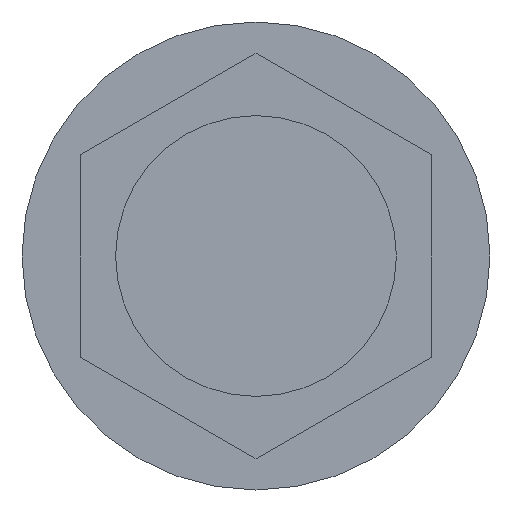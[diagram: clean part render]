
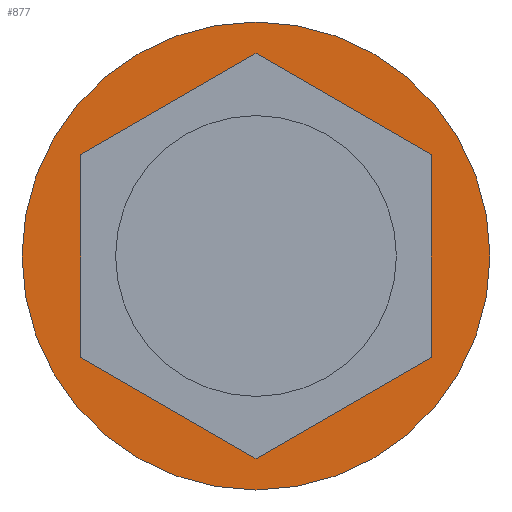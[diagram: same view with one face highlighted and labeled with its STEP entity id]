
A CAD part, front view. The second image highlights one B-rep face of the part: STEP entity #877.
In plain terms, the highlighted planar face has unit normal (0, -1, 0).
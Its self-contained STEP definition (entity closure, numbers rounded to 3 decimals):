
#804 = CYLINDRICAL_SURFACE('',#805,20.);
#805 = AXIS2_PLACEMENT_3D('',#806,#807,#808);
#806 = CARTESIAN_POINT('',(-85.,-16.,0.));
#807 = DIRECTION('',(0.,1.,0.));
#808 = DIRECTION('',(1.,0.,0.));
#823 = VERTEX_POINT('',#824);
#824 = CARTESIAN_POINT('',(-65.,-24.,0.));
#845 = EDGE_CURVE('',#823,#823,#846,.T.);
#846 = SURFACE_CURVE('',#847,(#852,#859),.PCURVE_S1.);
#847 = CIRCLE('',#848,20.);
#848 = AXIS2_PLACEMENT_3D('',#849,#850,#851);
#849 = CARTESIAN_POINT('',(-85.,-24.,0.));
#850 = DIRECTION('',(0.,-1.,0.));
#851 = DIRECTION('',(1.,0.,0.));
#852 = PCURVE('',#804,#853);
#853 = DEFINITIONAL_REPRESENTATION('',(#854),#858);
#854 = LINE('',#855,#856);
#855 = CARTESIAN_POINT('',(-0.,-8.));
#856 = VECTOR('',#857,1.);
#857 = DIRECTION('',(-1.,0.));
#858 = ( GEOMETRIC_REPRESENTATION_CONTEXT(2) 
PARAMETRIC_REPRESENTATION_CONTEXT() REPRESENTATION_CONTEXT('2D SPACE',''
  ) );
#859 = PCURVE('',#860,#865);
#860 = PLANE('',#861);
#861 = AXIS2_PLACEMENT_3D('',#862,#863,#864);
#862 = CARTESIAN_POINT('',(-85.,-24.,0.));
#863 = DIRECTION('',(0.,1.,0.));
#864 = DIRECTION('',(0.,0.,1.));
#865 = DEFINITIONAL_REPRESENTATION('',(#866),#874);
#866 = ( BOUNDED_CURVE() B_SPLINE_CURVE(2,(#867,#868,#869,#870,#871,#872
,#873),.UNSPECIFIED.,.T.,.F.) B_SPLINE_CURVE_WITH_KNOTS((1,2,2,2,2,1),(
    -2.094,0.,2.094,4.189,6.283,
8.378),.UNSPECIFIED.) CURVE() GEOMETRIC_REPRESENTATION_ITEM() 
RATIONAL_B_SPLINE_CURVE((1.,0.5,1.,0.5,1.,0.5,1.)) REPRESENTATION_ITEM(
  '') );
#867 = CARTESIAN_POINT('',(0.,20.));
#868 = CARTESIAN_POINT('',(34.641,20.));
#869 = CARTESIAN_POINT('',(17.321,-10.));
#870 = CARTESIAN_POINT('',(0.,-40.));
#871 = CARTESIAN_POINT('',(-17.321,-10.));
#872 = CARTESIAN_POINT('',(-34.641,20.));
#873 = CARTESIAN_POINT('',(0.,20.));
#874 = ( GEOMETRIC_REPRESENTATION_CONTEXT(2) 
PARAMETRIC_REPRESENTATION_CONTEXT() REPRESENTATION_CONTEXT('2D SPACE',''
  ) );
#877 = ADVANCED_FACE('',(#878,#881),#860,.F.);
#878 = FACE_BOUND('',#879,.F.);
#879 = EDGE_LOOP('',(#880));
#880 = ORIENTED_EDGE('',*,*,#845,.F.);
#881 = FACE_BOUND('',#882,.F.);
#882 = EDGE_LOOP('',(#883,#913,#941,#969,#997,#1025));
#883 = ORIENTED_EDGE('',*,*,#884,.T.);
#884 = EDGE_CURVE('',#885,#887,#889,.T.);
#885 = VERTEX_POINT('',#886);
#886 = CARTESIAN_POINT('',(-70.,-24.,-8.66));
#887 = VERTEX_POINT('',#888);
#888 = CARTESIAN_POINT('',(-70.,-24.,8.66));
#889 = SURFACE_CURVE('',#890,(#894,#901),.PCURVE_S1.);
#890 = LINE('',#891,#892);
#891 = CARTESIAN_POINT('',(-70.,-24.,-8.66));
#892 = VECTOR('',#893,1.);
#893 = DIRECTION('',(0.,0.,1.));
#894 = PCURVE('',#860,#895);
#895 = DEFINITIONAL_REPRESENTATION('',(#896),#900);
#896 = LINE('',#897,#898);
#897 = CARTESIAN_POINT('',(-8.66,15.));
#898 = VECTOR('',#899,1.);
#899 = DIRECTION('',(1.,0.));
#900 = ( GEOMETRIC_REPRESENTATION_CONTEXT(2) 
PARAMETRIC_REPRESENTATION_CONTEXT() REPRESENTATION_CONTEXT('2D SPACE',''
  ) );
#901 = PCURVE('',#902,#907);
#902 = PLANE('',#903);
#903 = AXIS2_PLACEMENT_3D('',#904,#905,#906);
#904 = CARTESIAN_POINT('',(-70.,-24.,-8.66));
#905 = DIRECTION('',(-1.,0.,0.));
#906 = DIRECTION('',(0.,0.,1.));
#907 = DEFINITIONAL_REPRESENTATION('',(#908),#912);
#908 = LINE('',#909,#910);
#909 = CARTESIAN_POINT('',(0.,0.));
#910 = VECTOR('',#911,1.);
#911 = DIRECTION('',(1.,0.));
#912 = ( GEOMETRIC_REPRESENTATION_CONTEXT(2) 
PARAMETRIC_REPRESENTATION_CONTEXT() REPRESENTATION_CONTEXT('2D SPACE',''
  ) );
#913 = ORIENTED_EDGE('',*,*,#914,.T.);
#914 = EDGE_CURVE('',#887,#915,#917,.T.);
#915 = VERTEX_POINT('',#916);
#916 = CARTESIAN_POINT('',(-85.,-24.,17.321));
#917 = SURFACE_CURVE('',#918,(#922,#929),.PCURVE_S1.);
#918 = LINE('',#919,#920);
#919 = CARTESIAN_POINT('',(-70.,-24.,8.66));
#920 = VECTOR('',#921,1.);
#921 = DIRECTION('',(-0.866,0.,0.5));
#922 = PCURVE('',#860,#923);
#923 = DEFINITIONAL_REPRESENTATION('',(#924),#928);
#924 = LINE('',#925,#926);
#925 = CARTESIAN_POINT('',(8.66,15.));
#926 = VECTOR('',#927,1.);
#927 = DIRECTION('',(0.5,-0.866));
#928 = ( GEOMETRIC_REPRESENTATION_CONTEXT(2) 
PARAMETRIC_REPRESENTATION_CONTEXT() REPRESENTATION_CONTEXT('2D SPACE',''
  ) );
#929 = PCURVE('',#930,#935);
#930 = PLANE('',#931);
#931 = AXIS2_PLACEMENT_3D('',#932,#933,#934);
#932 = CARTESIAN_POINT('',(-70.,-24.,8.66));
#933 = DIRECTION('',(-0.5,0.,-0.866));
#934 = DIRECTION('',(-0.866,0.,0.5));
#935 = DEFINITIONAL_REPRESENTATION('',(#936),#940);
#936 = LINE('',#937,#938);
#937 = CARTESIAN_POINT('',(0.,0.));
#938 = VECTOR('',#939,1.);
#939 = DIRECTION('',(1.,0.));
#940 = ( GEOMETRIC_REPRESENTATION_CONTEXT(2) 
PARAMETRIC_REPRESENTATION_CONTEXT() REPRESENTATION_CONTEXT('2D SPACE',''
  ) );
#941 = ORIENTED_EDGE('',*,*,#942,.T.);
#942 = EDGE_CURVE('',#915,#943,#945,.T.);
#943 = VERTEX_POINT('',#944);
#944 = CARTESIAN_POINT('',(-100.,-24.,8.66));
#945 = SURFACE_CURVE('',#946,(#950,#957),.PCURVE_S1.);
#946 = LINE('',#947,#948);
#947 = CARTESIAN_POINT('',(-85.,-24.,17.321));
#948 = VECTOR('',#949,1.);
#949 = DIRECTION('',(-0.866,0.,-0.5));
#950 = PCURVE('',#860,#951);
#951 = DEFINITIONAL_REPRESENTATION('',(#952),#956);
#952 = LINE('',#953,#954);
#953 = CARTESIAN_POINT('',(17.321,0.));
#954 = VECTOR('',#955,1.);
#955 = DIRECTION('',(-0.5,-0.866));
#956 = ( GEOMETRIC_REPRESENTATION_CONTEXT(2) 
PARAMETRIC_REPRESENTATION_CONTEXT() REPRESENTATION_CONTEXT('2D SPACE',''
  ) );
#957 = PCURVE('',#958,#963);
#958 = PLANE('',#959);
#959 = AXIS2_PLACEMENT_3D('',#960,#961,#962);
#960 = CARTESIAN_POINT('',(-85.,-24.,17.321));
#961 = DIRECTION('',(0.5,0.,-0.866));
#962 = DIRECTION('',(-0.866,0.,-0.5));
#963 = DEFINITIONAL_REPRESENTATION('',(#964),#968);
#964 = LINE('',#965,#966);
#965 = CARTESIAN_POINT('',(0.,0.));
#966 = VECTOR('',#967,1.);
#967 = DIRECTION('',(1.,0.));
#968 = ( GEOMETRIC_REPRESENTATION_CONTEXT(2) 
PARAMETRIC_REPRESENTATION_CONTEXT() REPRESENTATION_CONTEXT('2D SPACE',''
  ) );
#969 = ORIENTED_EDGE('',*,*,#970,.T.);
#970 = EDGE_CURVE('',#943,#971,#973,.T.);
#971 = VERTEX_POINT('',#972);
#972 = CARTESIAN_POINT('',(-100.,-24.,-8.66));
#973 = SURFACE_CURVE('',#974,(#978,#985),.PCURVE_S1.);
#974 = LINE('',#975,#976);
#975 = CARTESIAN_POINT('',(-100.,-24.,8.66));
#976 = VECTOR('',#977,1.);
#977 = DIRECTION('',(0.,0.,-1.));
#978 = PCURVE('',#860,#979);
#979 = DEFINITIONAL_REPRESENTATION('',(#980),#984);
#980 = LINE('',#981,#982);
#981 = CARTESIAN_POINT('',(8.66,-15.));
#982 = VECTOR('',#983,1.);
#983 = DIRECTION('',(-1.,0.));
#984 = ( GEOMETRIC_REPRESENTATION_CONTEXT(2) 
PARAMETRIC_REPRESENTATION_CONTEXT() REPRESENTATION_CONTEXT('2D SPACE',''
  ) );
#985 = PCURVE('',#986,#991);
#986 = PLANE('',#987);
#987 = AXIS2_PLACEMENT_3D('',#988,#989,#990);
#988 = CARTESIAN_POINT('',(-100.,-24.,8.66));
#989 = DIRECTION('',(1.,0.,0.));
#990 = DIRECTION('',(0.,0.,-1.));
#991 = DEFINITIONAL_REPRESENTATION('',(#992),#996);
#992 = LINE('',#993,#994);
#993 = CARTESIAN_POINT('',(0.,0.));
#994 = VECTOR('',#995,1.);
#995 = DIRECTION('',(1.,0.));
#996 = ( GEOMETRIC_REPRESENTATION_CONTEXT(2) 
PARAMETRIC_REPRESENTATION_CONTEXT() REPRESENTATION_CONTEXT('2D SPACE',''
  ) );
#997 = ORIENTED_EDGE('',*,*,#998,.T.);
#998 = EDGE_CURVE('',#971,#999,#1001,.T.);
#999 = VERTEX_POINT('',#1000);
#1000 = CARTESIAN_POINT('',(-85.,-24.,-17.321));
#1001 = SURFACE_CURVE('',#1002,(#1006,#1013),.PCURVE_S1.);
#1002 = LINE('',#1003,#1004);
#1003 = CARTESIAN_POINT('',(-100.,-24.,-8.66));
#1004 = VECTOR('',#1005,1.);
#1005 = DIRECTION('',(0.866,0.,-0.5));
#1006 = PCURVE('',#860,#1007);
#1007 = DEFINITIONAL_REPRESENTATION('',(#1008),#1012);
#1008 = LINE('',#1009,#1010);
#1009 = CARTESIAN_POINT('',(-8.66,-15.));
#1010 = VECTOR('',#1011,1.);
#1011 = DIRECTION('',(-0.5,0.866));
#1012 = ( GEOMETRIC_REPRESENTATION_CONTEXT(2) 
PARAMETRIC_REPRESENTATION_CONTEXT() REPRESENTATION_CONTEXT('2D SPACE',''
  ) );
#1013 = PCURVE('',#1014,#1019);
#1014 = PLANE('',#1015);
#1015 = AXIS2_PLACEMENT_3D('',#1016,#1017,#1018);
#1016 = CARTESIAN_POINT('',(-100.,-24.,-8.66));
#1017 = DIRECTION('',(0.5,0.,0.866));
#1018 = DIRECTION('',(0.866,0.,-0.5));
#1019 = DEFINITIONAL_REPRESENTATION('',(#1020),#1024);
#1020 = LINE('',#1021,#1022);
#1021 = CARTESIAN_POINT('',(0.,0.));
#1022 = VECTOR('',#1023,1.);
#1023 = DIRECTION('',(1.,0.));
#1024 = ( GEOMETRIC_REPRESENTATION_CONTEXT(2) 
PARAMETRIC_REPRESENTATION_CONTEXT() REPRESENTATION_CONTEXT('2D SPACE',''
  ) );
#1025 = ORIENTED_EDGE('',*,*,#1026,.T.);
#1026 = EDGE_CURVE('',#999,#885,#1027,.T.);
#1027 = SURFACE_CURVE('',#1028,(#1032,#1039),.PCURVE_S1.);
#1028 = LINE('',#1029,#1030);
#1029 = CARTESIAN_POINT('',(-85.,-24.,-17.321));
#1030 = VECTOR('',#1031,1.);
#1031 = DIRECTION('',(0.866,0.,0.5));
#1032 = PCURVE('',#860,#1033);
#1033 = DEFINITIONAL_REPRESENTATION('',(#1034),#1038);
#1034 = LINE('',#1035,#1036);
#1035 = CARTESIAN_POINT('',(-17.321,0.));
#1036 = VECTOR('',#1037,1.);
#1037 = DIRECTION('',(0.5,0.866));
#1038 = ( GEOMETRIC_REPRESENTATION_CONTEXT(2) 
PARAMETRIC_REPRESENTATION_CONTEXT() REPRESENTATION_CONTEXT('2D SPACE',''
  ) );
#1039 = PCURVE('',#1040,#1045);
#1040 = PLANE('',#1041);
#1041 = AXIS2_PLACEMENT_3D('',#1042,#1043,#1044);
#1042 = CARTESIAN_POINT('',(-85.,-24.,-17.321));
#1043 = DIRECTION('',(-0.5,0.,0.866));
#1044 = DIRECTION('',(0.866,0.,0.5));
#1045 = DEFINITIONAL_REPRESENTATION('',(#1046),#1050);
#1046 = LINE('',#1047,#1048);
#1047 = CARTESIAN_POINT('',(0.,0.));
#1048 = VECTOR('',#1049,1.);
#1049 = DIRECTION('',(1.,0.));
#1050 = ( GEOMETRIC_REPRESENTATION_CONTEXT(2) 
PARAMETRIC_REPRESENTATION_CONTEXT() REPRESENTATION_CONTEXT('2D SPACE',''
  ) );
